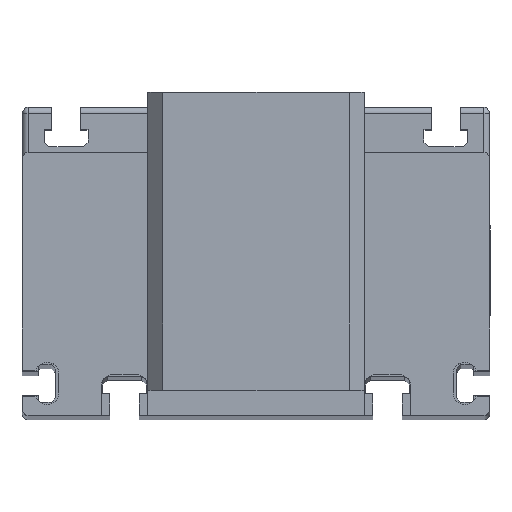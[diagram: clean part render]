
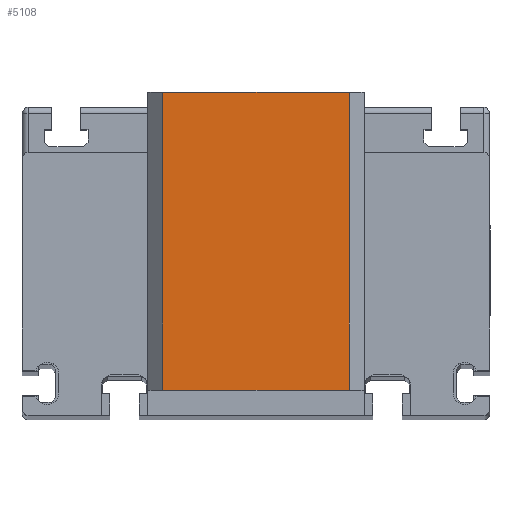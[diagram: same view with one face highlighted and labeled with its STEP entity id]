
A CAD part, top view. The second image highlights one B-rep face of the part: STEP entity #5108.
In plain terms, the highlighted planar face has unit normal (0, 0, 1).
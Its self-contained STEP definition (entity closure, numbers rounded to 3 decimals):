
#216 = DIRECTION ( 'NONE',  ( 1., 0., 0. ) ) ;
#749 = LINE ( 'NONE', #12484, #3152 ) ;
#796 = CARTESIAN_POINT ( 'NONE',  ( 32., 0., 38. ) ) ;
#1680 = VERTEX_POINT ( 'NONE', #796 ) ;
#1973 = DIRECTION ( 'NONE',  ( -1., 0., 0. ) ) ;
#1975 = VERTEX_POINT ( 'NONE', #4810 ) ;
#2340 = CARTESIAN_POINT ( 'NONE',  ( -32., 102., 38. ) ) ;
#2371 = FACE_OUTER_BOUND ( 'NONE', #4465, .T. ) ;
#3152 = VECTOR ( 'NONE', #7547, 1000. ) ;
#3311 = VERTEX_POINT ( 'NONE', #2340 ) ;
#3532 = VERTEX_POINT ( 'NONE', #7749 ) ;
#4250 = ORIENTED_EDGE ( 'NONE', *, *, #12876, .T. ) ;
#4465 = EDGE_LOOP ( 'NONE', ( #6644, #11732, #4250, #5347 ) ) ;
#4810 = CARTESIAN_POINT ( 'NONE',  ( -32., 0., 38. ) ) ;
#5057 = EDGE_CURVE ( 'NONE', #1680, #3532, #11095, .T. ) ;
#5108 = ADVANCED_FACE ( 'NONE', ( #2371 ), #10319, .F. ) ;
#5347 = ORIENTED_EDGE ( 'NONE', *, *, #5057, .T. ) ;
#5693 = DIRECTION ( 'NONE',  ( 0., 1., 0. ) ) ;
#6055 = EDGE_CURVE ( 'NONE', #3311, #3532, #11163, .T. ) ;
#6369 = CARTESIAN_POINT ( 'NONE',  ( 0., 102., 38. ) ) ;
#6644 = ORIENTED_EDGE ( 'NONE', *, *, #6055, .F. ) ;
#6853 = EDGE_CURVE ( 'NONE', #3311, #1975, #8769, .T. ) ;
#7547 = DIRECTION ( 'NONE',  ( 1., 0., 0. ) ) ;
#7749 = CARTESIAN_POINT ( 'NONE',  ( 32., 102., 38. ) ) ;
#8769 = LINE ( 'NONE', #11778, #10881 ) ;
#9370 = VECTOR ( 'NONE', #216, 1000. ) ;
#9921 = AXIS2_PLACEMENT_3D ( 'NONE', #6369, #11161, #1973 ) ;
#9996 = CARTESIAN_POINT ( 'NONE',  ( 0., 102., 38. ) ) ;
#10319 = PLANE ( 'NONE',  #9921 ) ;
#10796 = VECTOR ( 'NONE', #5693, 1000. ) ;
#10881 = VECTOR ( 'NONE', #12739, 1000. ) ;
#11095 = LINE ( 'NONE', #12275, #10796 ) ;
#11161 = DIRECTION ( 'NONE',  ( 0., 0., -1. ) ) ;
#11163 = LINE ( 'NONE', #9996, #9370 ) ;
#11732 = ORIENTED_EDGE ( 'NONE', *, *, #6853, .T. ) ;
#11778 = CARTESIAN_POINT ( 'NONE',  ( -32., 102., 38. ) ) ;
#12275 = CARTESIAN_POINT ( 'NONE',  ( 32., 102., 38. ) ) ;
#12484 = CARTESIAN_POINT ( 'NONE',  ( 0., 0., 38. ) ) ;
#12739 = DIRECTION ( 'NONE',  ( 0., -1., 0. ) ) ;
#12876 = EDGE_CURVE ( 'NONE', #1975, #1680, #749, .T. ) ;
